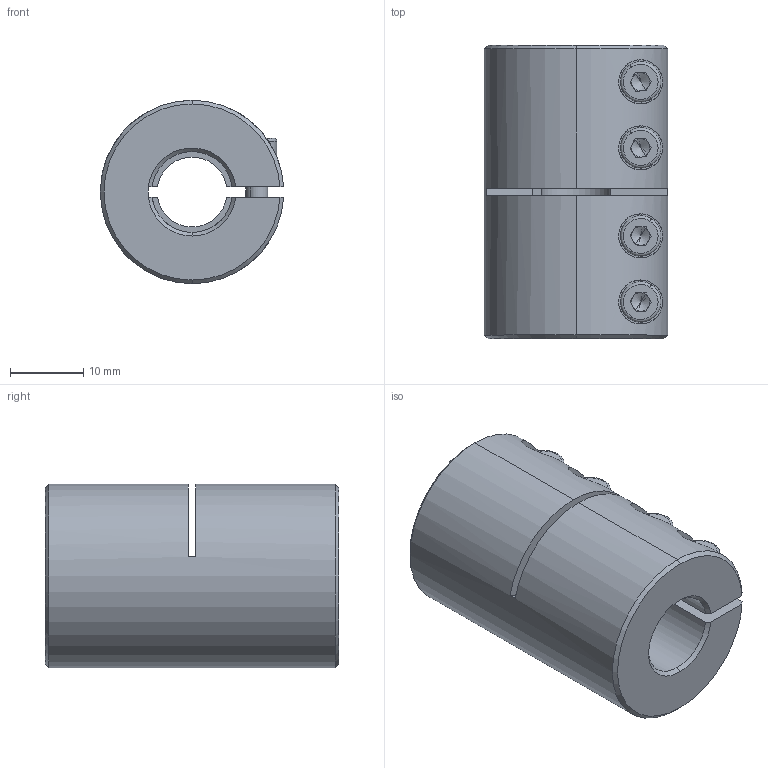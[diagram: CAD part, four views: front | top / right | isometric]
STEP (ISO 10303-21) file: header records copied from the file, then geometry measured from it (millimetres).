
FILE_DESCRIPTION (( 'STEP AP214' ), '1' );
FILE_NAME ('LL-B-D25L40-9.525-11½¨Ä£.STEP', '2022-07-21T05:19:01', ( '' ), ( '' ), 'SwSTEP 2.0', 'SolidWorks 2022', '' );
FILE_SCHEMA (( 'AUTOMOTIVE_DESIGN' ));
Length unit declared in the file: millimetre
Products named in the file (1): LL-B-D25L40-9.525-11膘耀
Bounding box: 24.98 x 40 x 25 mm (x, y, z)
Volume: 15314.5 mm3; surface area: 7138.8 mm2
Topology: 1 solids, 1 shells, 178 faces, 455 edges, 287 vertices
Faces by surface type: plane 85, cylinder 65, cone 20, torus 8
Entity records: 5838 total; most frequent: CARTESIAN_POINT 1437, DIRECTION 946, ORIENTED_EDGE 894, EDGE_CURVE 447, AXIS2_PLACEMENT_3D 364, VERTEX_POINT 287, VECTOR 218, LINE 218
